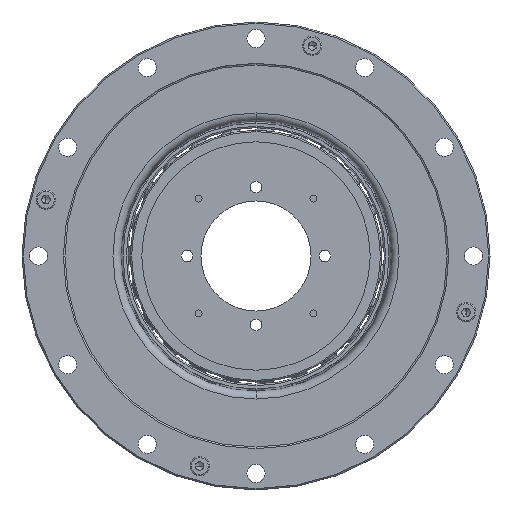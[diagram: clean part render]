
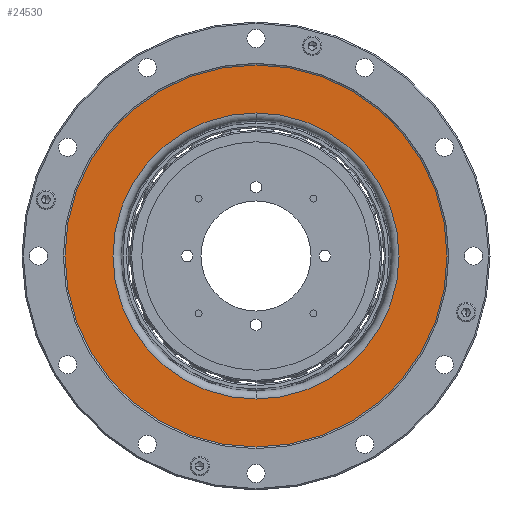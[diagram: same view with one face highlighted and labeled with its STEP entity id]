
A CAD part, left-side view. The second image highlights one B-rep face of the part: STEP entity #24530.
In plain terms, the highlighted planar face has unit normal (-1, 0, 0).
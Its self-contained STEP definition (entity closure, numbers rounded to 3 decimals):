
#202 = FACE_BOUND ( 'NONE', #21503, .T. ) ;
#926 = DIRECTION ( 'NONE',  ( -1., 0., 0. ) ) ;
#1357 = DIRECTION ( 'NONE',  ( 0., 0., 1. ) ) ;
#1488 = CARTESIAN_POINT ( 'NONE',  ( 6.598, 0., -51.975 ) ) ;
#2841 = CIRCLE ( 'NONE', #16289, 69.4 ) ;
#5612 = DIRECTION ( 'NONE',  ( -1., 0., 0. ) ) ;
#6141 = VERTEX_POINT ( 'NONE', #9907 ) ;
#7165 = CIRCLE ( 'NONE', #14445, 51.975 ) ;
#7256 = VERTEX_POINT ( 'NONE', #1488 ) ;
#8750 = AXIS2_PLACEMENT_3D ( 'NONE', #17582, #5612, #19603 ) ;
#9108 = ORIENTED_EDGE ( 'NONE', *, *, #14227, .T. ) ;
#9447 = EDGE_CURVE ( 'NONE', #7256, #6141, #19951, .T. ) ;
#9907 = CARTESIAN_POINT ( 'NONE',  ( 6.598, 0., 51.975 ) ) ;
#10213 = EDGE_LOOP ( 'NONE', ( #9108, #13795 ) ) ;
#10266 = FACE_OUTER_BOUND ( 'NONE', #10213, .T. ) ;
#11038 = CARTESIAN_POINT ( 'NONE',  ( 6.598, 0., 0. ) ) ;
#12108 = DIRECTION ( 'NONE',  ( 0., 0., 1. ) ) ;
#12957 = CARTESIAN_POINT ( 'NONE',  ( 6.598, 0., 0. ) ) ;
#13043 = DIRECTION ( 'NONE',  ( 0., 0., 1. ) ) ;
#13376 = DIRECTION ( 'NONE',  ( -1., 0., 0. ) ) ;
#13795 = ORIENTED_EDGE ( 'NONE', *, *, #23060, .T. ) ;
#14227 = EDGE_CURVE ( 'NONE', #23711, #17121, #2841, .T. ) ;
#14445 = AXIS2_PLACEMENT_3D ( 'NONE', #25394, #13376, #1357 ) ;
#14969 = DIRECTION ( 'NONE',  ( 0., 0., 1. ) ) ;
#15712 = CARTESIAN_POINT ( 'NONE',  ( 6.598, 0., 69.4 ) ) ;
#15999 = ORIENTED_EDGE ( 'NONE', *, *, #23560, .F. ) ;
#16289 = AXIS2_PLACEMENT_3D ( 'NONE', #12957, #926, #14969 ) ;
#16431 = ORIENTED_EDGE ( 'NONE', *, *, #9447, .F. ) ;
#17121 = VERTEX_POINT ( 'NONE', #25876 ) ;
#17582 = CARTESIAN_POINT ( 'NONE',  ( 6.598, 0., 0. ) ) ;
#18016 = AXIS2_PLACEMENT_3D ( 'NONE', #20055, #24115, #12108 ) ;
#18027 = PLANE ( 'NONE',  #18016 ) ;
#18080 = CIRCLE ( 'NONE', #8750, 69.4 ) ;
#19603 = DIRECTION ( 'NONE',  ( 0., 0., 1. ) ) ;
#19951 = CIRCLE ( 'NONE', #21991, 51.975 ) ;
#20055 = CARTESIAN_POINT ( 'NONE',  ( 6.598, 0., 0. ) ) ;
#21503 = EDGE_LOOP ( 'NONE', ( #15999, #16431 ) ) ;
#21991 = AXIS2_PLACEMENT_3D ( 'NONE', #11038, #25064, #13043 ) ;
#23060 = EDGE_CURVE ( 'NONE', #17121, #23711, #18080, .T. ) ;
#23560 = EDGE_CURVE ( 'NONE', #6141, #7256, #7165, .T. ) ;
#23711 = VERTEX_POINT ( 'NONE', #15712 ) ;
#24115 = DIRECTION ( 'NONE',  ( -1., 0., 0. ) ) ;
#24530 = ADVANCED_FACE ( 'NONE', ( #10266, #202 ), #18027, .T. ) ;
#25064 = DIRECTION ( 'NONE',  ( -1., 0., 0. ) ) ;
#25394 = CARTESIAN_POINT ( 'NONE',  ( 6.598, 0., 0. ) ) ;
#25876 = CARTESIAN_POINT ( 'NONE',  ( 6.598, 0., -69.4 ) ) ;
